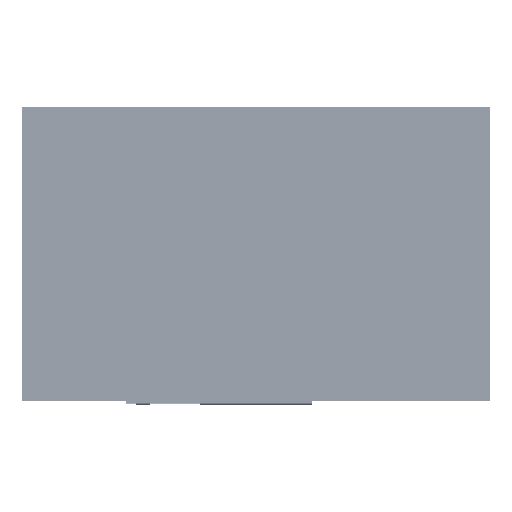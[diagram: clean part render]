
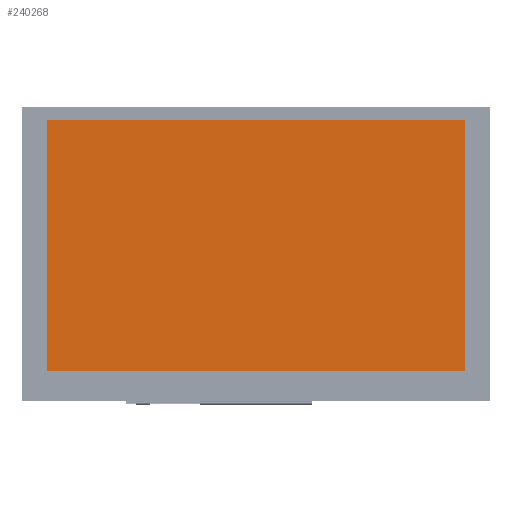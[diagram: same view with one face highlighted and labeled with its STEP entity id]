
A CAD part, top view. The second image highlights one B-rep face of the part: STEP entity #240268.
In plain terms, the highlighted planar face has unit normal (0, 0, 1).
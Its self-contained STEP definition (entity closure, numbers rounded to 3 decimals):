
#930 = VERTEX_POINT ( 'NONE', #470363 ) ;
#22705 = LINE ( 'NONE', #28822, #204713 ) ;
#24756 = EDGE_CURVE ( 'NONE', #545832, #570503, #463036, .T. ) ;
#28822 = CARTESIAN_POINT ( 'NONE',  ( 0., 32.4, 2.95 ) ) ;
#30479 = CARTESIAN_POINT ( 'NONE',  ( 54., 0., 2.95 ) ) ;
#57331 = ORIENTED_EDGE ( 'NONE', *, *, #553784, .F. ) ;
#70341 = VECTOR ( 'NONE', #344657, 1000. ) ;
#108492 = DIRECTION ( 'NONE',  ( 1., 0., 0. ) ) ;
#148590 = CARTESIAN_POINT ( 'NONE',  ( -54., 0., 2.95 ) ) ;
#156270 = LINE ( 'NONE', #346179, #443277 ) ;
#162726 = VECTOR ( 'NONE', #220454, 1000. ) ;
#169058 = DIRECTION ( 'NONE',  ( 1., 0., 0. ) ) ;
#177279 = EDGE_CURVE ( 'NONE', #930, #545832, #22705, .T. ) ;
#203042 = EDGE_CURVE ( 'NONE', #570850, #930, #584391, .T. ) ;
#204713 = VECTOR ( 'NONE', #169058, 1000. ) ;
#208043 = FACE_OUTER_BOUND ( 'NONE', #285517, .T. ) ;
#208882 = CARTESIAN_POINT ( 'NONE',  ( 54., -32.4, 2.95 ) ) ;
#220454 = DIRECTION ( 'NONE',  ( 0., -1., 0. ) ) ;
#240268 = ADVANCED_FACE ( 'NONE', ( #208043 ), #292233, .T. ) ;
#245588 = DIRECTION ( 'NONE',  ( 0., 0., 1. ) ) ;
#252869 = DIRECTION ( 'NONE',  ( -1., 0., 0. ) ) ;
#285517 = EDGE_LOOP ( 'NONE', ( #590534, #57331, #366786, #599797 ) ) ;
#292233 = PLANE ( 'NONE',  #601472 ) ;
#344657 = DIRECTION ( 'NONE',  ( 0., 1., 0. ) ) ;
#346179 = CARTESIAN_POINT ( 'NONE',  ( 0., -32.4, 2.95 ) ) ;
#366786 = ORIENTED_EDGE ( 'NONE', *, *, #24756, .F. ) ;
#443277 = VECTOR ( 'NONE', #252869, 1000. ) ;
#463036 = LINE ( 'NONE', #30479, #162726 ) ;
#470363 = CARTESIAN_POINT ( 'NONE',  ( -54., 32.4, 2.95 ) ) ;
#491290 = CARTESIAN_POINT ( 'NONE',  ( 0., 0., 2.95 ) ) ;
#539628 = CARTESIAN_POINT ( 'NONE',  ( 54., 32.4, 2.95 ) ) ;
#545832 = VERTEX_POINT ( 'NONE', #539628 ) ;
#553784 = EDGE_CURVE ( 'NONE', #570503, #570850, #156270, .T. ) ;
#570503 = VERTEX_POINT ( 'NONE', #208882 ) ;
#570850 = VERTEX_POINT ( 'NONE', #574213 ) ;
#574213 = CARTESIAN_POINT ( 'NONE',  ( -54., -32.4, 2.95 ) ) ;
#584391 = LINE ( 'NONE', #148590, #70341 ) ;
#590534 = ORIENTED_EDGE ( 'NONE', *, *, #203042, .F. ) ;
#599797 = ORIENTED_EDGE ( 'NONE', *, *, #177279, .F. ) ;
#601472 = AXIS2_PLACEMENT_3D ( 'NONE', #491290, #245588, #108492 ) ;
